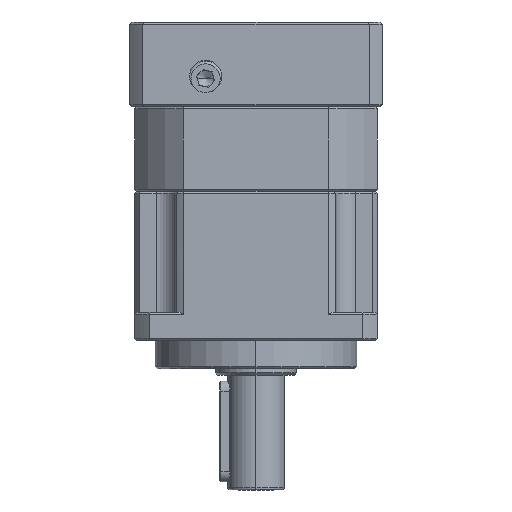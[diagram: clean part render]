
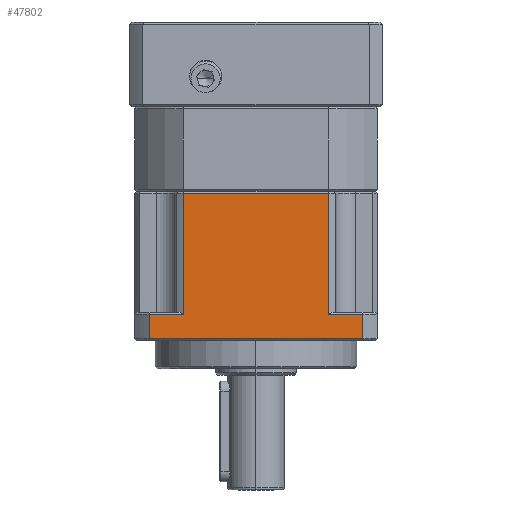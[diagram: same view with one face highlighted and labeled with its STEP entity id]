
A CAD part, left-side view. The second image highlights one B-rep face of the part: STEP entity #47802.
In plain terms, the highlighted planar face has unit normal (-1, 0, 0).
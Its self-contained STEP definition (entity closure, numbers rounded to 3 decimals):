
#1831 = CARTESIAN_POINT ( 'NONE',  ( -62.293, 28.941, 111.002 ) ) ;
#3532 = LINE ( 'NONE', #8741, #78384 ) ;
#3930 = AXIS2_PLACEMENT_3D ( 'NONE', #65821, #22415, #73136 ) ;
#7678 = VECTOR ( 'NONE', #14144, 1000. ) ;
#8741 = CARTESIAN_POINT ( 'NONE',  ( -62.293, -19.087, 110.502 ) ) ;
#9035 = DIRECTION ( 'NONE',  ( 0., -1., 0. ) ) ;
#12674 = LINE ( 'NONE', #49129, #42089 ) ;
#13509 = DIRECTION ( 'NONE',  ( 0., 1., 0. ) ) ;
#13764 = LINE ( 'NONE', #56883, #39854 ) ;
#14144 = DIRECTION ( 'NONE',  ( 0., -1., 0. ) ) ;
#15452 = ORIENTED_EDGE ( 'NONE', *, *, #88124, .F. ) ;
#18660 = ORIENTED_EDGE ( 'NONE', *, *, #35362, .F. ) ;
#22341 = EDGE_CURVE ( 'NONE', #85414, #57780, #24093, .T. ) ;
#22415 = DIRECTION ( 'NONE',  ( 1., 0., 0. ) ) ;
#23343 = DIRECTION ( 'NONE',  ( 0., 1., 0. ) ) ;
#24093 = LINE ( 'NONE', #37754, #62653 ) ;
#26241 = CARTESIAN_POINT ( 'NONE',  ( -62.293, -15.545, 74.502 ) ) ;
#27745 = CARTESIAN_POINT ( 'NONE',  ( -62.293, -15.545, 80.502 ) ) ;
#28410 = EDGE_CURVE ( 'NONE', #85414, #51257, #3532, .T. ) ;
#28922 = ORIENTED_EDGE ( 'NONE', *, *, #58170, .F. ) ;
#31702 = VERTEX_POINT ( 'NONE', #55142 ) ;
#32005 = LINE ( 'NONE', #1831, #68315 ) ;
#35195 = FACE_OUTER_BOUND ( 'NONE', #42720, .T. ) ;
#35254 = VERTEX_POINT ( 'NONE', #26241 ) ;
#35362 = EDGE_CURVE ( 'NONE', #35254, #81399, #13764, .T. ) ;
#36589 = PLANE ( 'NONE',  #3930 ) ;
#37754 = CARTESIAN_POINT ( 'NONE',  ( -62.293, -7.115, 111.002 ) ) ;
#38445 = CARTESIAN_POINT ( 'NONE',  ( -62.293, -19.087, 80.502 ) ) ;
#39854 = VECTOR ( 'NONE', #13509, 1000. ) ;
#40968 = ORIENTED_EDGE ( 'NONE', *, *, #93348, .F. ) ;
#41105 = LINE ( 'NONE', #85355, #60462 ) ;
#42089 = VECTOR ( 'NONE', #49754, 1000. ) ;
#42720 = EDGE_LOOP ( 'NONE', ( #51206, #82384, #28922, #40968, #67958, #18660, #15452, #66516 ) ) ;
#46673 = VERTEX_POINT ( 'NONE', #27745 ) ;
#47802 = ADVANCED_FACE ( 'NONE', ( #35195 ), #36589, .F. ) ;
#49129 = CARTESIAN_POINT ( 'NONE',  ( -62.293, 37.37, 111.002 ) ) ;
#49550 = CARTESIAN_POINT ( 'NONE',  ( -62.293, 28.941, 110.502 ) ) ;
#49754 = DIRECTION ( 'NONE',  ( 0., 0., 1. ) ) ;
#50228 = CARTESIAN_POINT ( 'NONE',  ( -62.293, -19.087, 80.502 ) ) ;
#51000 = LINE ( 'NONE', #38445, #70360 ) ;
#51206 = ORIENTED_EDGE ( 'NONE', *, *, #22341, .F. ) ;
#51257 = VERTEX_POINT ( 'NONE', #49550 ) ;
#55142 = CARTESIAN_POINT ( 'NONE',  ( -62.293, 37.37, 80.502 ) ) ;
#56883 = CARTESIAN_POINT ( 'NONE',  ( -62.293, -19.087, 74.502 ) ) ;
#57780 = VERTEX_POINT ( 'NONE', #69760 ) ;
#58170 = EDGE_CURVE ( 'NONE', #71400, #51257, #32005, .T. ) ;
#59185 = DIRECTION ( 'NONE',  ( 0., 0., 1. ) ) ;
#60462 = VECTOR ( 'NONE', #78009, 1000. ) ;
#62653 = VECTOR ( 'NONE', #88291, 1000. ) ;
#65212 = CARTESIAN_POINT ( 'NONE',  ( -62.293, 28.941, 80.502 ) ) ;
#65400 = CARTESIAN_POINT ( 'NONE',  ( -62.293, -7.115, 110.502 ) ) ;
#65821 = CARTESIAN_POINT ( 'NONE',  ( -62.293, -19.087, 111.002 ) ) ;
#66516 = ORIENTED_EDGE ( 'NONE', *, *, #72154, .F. ) ;
#67958 = ORIENTED_EDGE ( 'NONE', *, *, #85789, .F. ) ;
#68315 = VECTOR ( 'NONE', #59185, 1000. ) ;
#69760 = CARTESIAN_POINT ( 'NONE',  ( -62.293, -7.115, 80.502 ) ) ;
#70360 = VECTOR ( 'NONE', #9035, 1000. ) ;
#71400 = VERTEX_POINT ( 'NONE', #65212 ) ;
#72154 = EDGE_CURVE ( 'NONE', #57780, #46673, #51000, .T. ) ;
#73136 = DIRECTION ( 'NONE',  ( 0., 0., -1. ) ) ;
#78009 = DIRECTION ( 'NONE',  ( 0., 0., -1. ) ) ;
#78384 = VECTOR ( 'NONE', #23343, 1000. ) ;
#81399 = VERTEX_POINT ( 'NONE', #81599 ) ;
#81599 = CARTESIAN_POINT ( 'NONE',  ( -62.293, 37.37, 74.502 ) ) ;
#82384 = ORIENTED_EDGE ( 'NONE', *, *, #28410, .T. ) ;
#82670 = LINE ( 'NONE', #50228, #7678 ) ;
#85355 = CARTESIAN_POINT ( 'NONE',  ( -62.293, -15.545, 111.002 ) ) ;
#85414 = VERTEX_POINT ( 'NONE', #65400 ) ;
#85789 = EDGE_CURVE ( 'NONE', #81399, #31702, #12674, .T. ) ;
#88124 = EDGE_CURVE ( 'NONE', #46673, #35254, #41105, .T. ) ;
#88291 = DIRECTION ( 'NONE',  ( 0., 0., -1. ) ) ;
#93348 = EDGE_CURVE ( 'NONE', #31702, #71400, #82670, .T. ) ;
